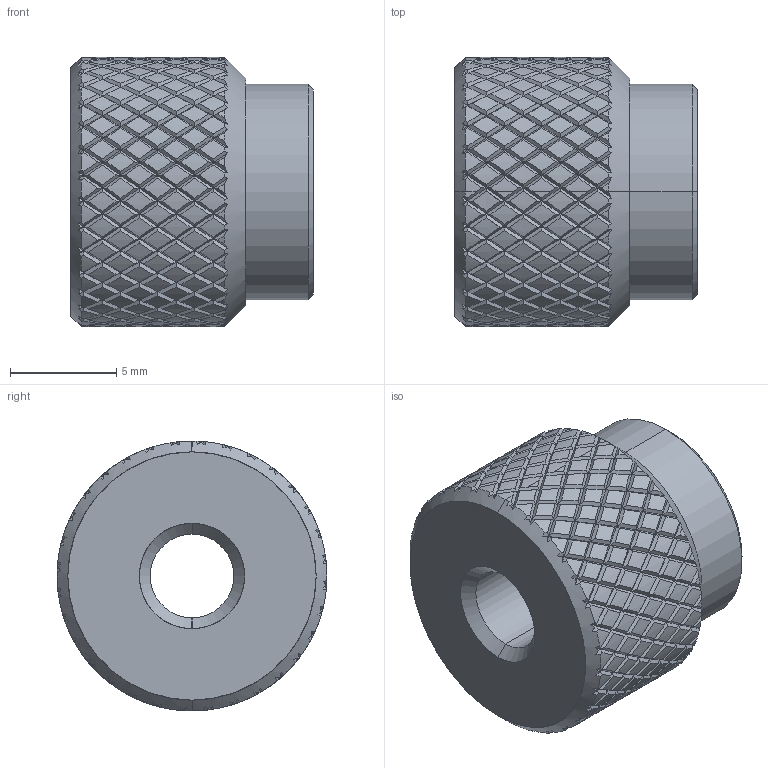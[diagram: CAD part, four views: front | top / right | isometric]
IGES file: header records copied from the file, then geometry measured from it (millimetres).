
Start section: SolidWorks IGES file using analytic representation for surfaces
Global section: file name: C:\Users\workpc\Desktop\KMA Solidworks\Imperial Knobs\KB250-80.IGS; native system: SolidWorks 2013; preprocessor: SolidWorks 2013; author: workpc; date: 130821.145444; units: inch
Bounding box: 11.43 x 12.7 x 12.7 mm (x, y, z)
Surface area: 860.8 mm2 (no closed solid volume)
Topology: 0 solids, 0 shells, 1469 faces, 6550 edges, 6550 vertices
Faces by surface type: bspline 1156, revolution 313
